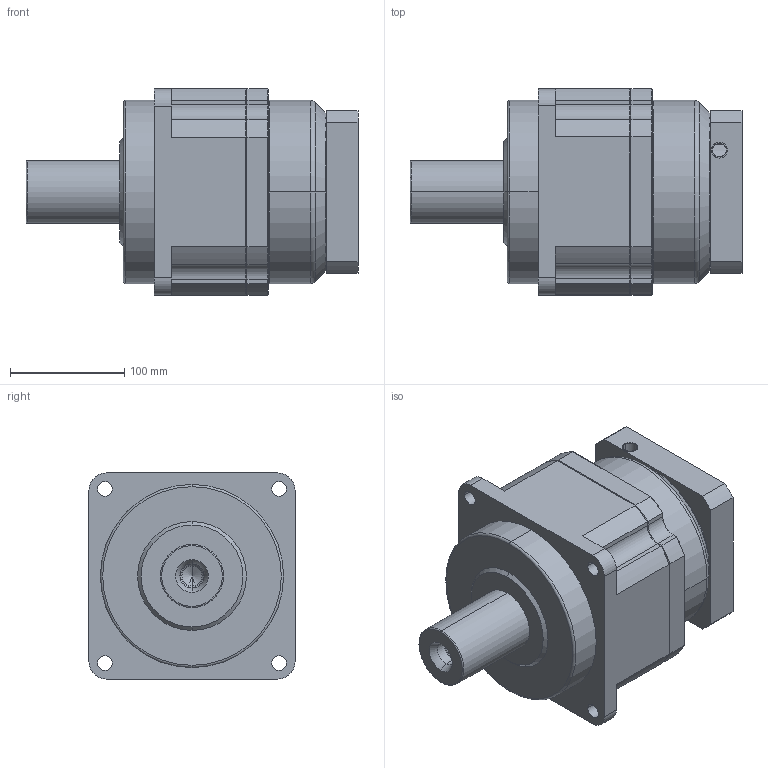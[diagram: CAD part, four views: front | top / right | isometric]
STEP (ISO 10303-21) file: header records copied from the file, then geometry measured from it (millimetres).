
FILE_DESCRIPTION((''),'2;1');
FILE_NAME('AF1801-P0403600102_ASM','2023-04-24T',('Administrator'),(''),'PRO/ENGINEER BY PARAMETRIC TECHNOLOGY CORPORATION, 2015240','PRO/ENGINEER BY PARAMETRIC TECHNOLOGY CORPORATION, 2015240','');
FILE_SCHEMA(('CONFIG_CONTROL_DESIGN'));
Length unit declared in the file: millimetre
Products named in the file (6): P1301600001_D; AF180; AB-INPUTSHAFT-6; AF1801_ASM; P0403600102-0012; AF1801-P0403600102_ASM
Assembly tree (5 placements, depth 3):
  AF1801-P0403600102_ASM
    AF1801_ASM
      P1301600001_D
      AF180
      AB-INPUTSHAFT-6
    P0403600102-0012
Bounding box: 290 x 180 x 180 mm (x, y, z)
Volume: 4787543.6 mm3; surface area: 355354.5 mm2
Topology: 4 solids, 10 shells, 290 faces, 713 edges, 441 vertices
Faces by surface type: cylinder 129, plane 91, cone 46, torus 24
Entity records: 8919 total; most frequent: CARTESIAN_POINT 1720, DIRECTION 1613, ORIENTED_EDGE 1380, EDGE_CURVE 703, AXIS2_PLACEMENT_3D 653, VERTEX_POINT 441, CIRCLE 345, EDGE_LOOP 338
